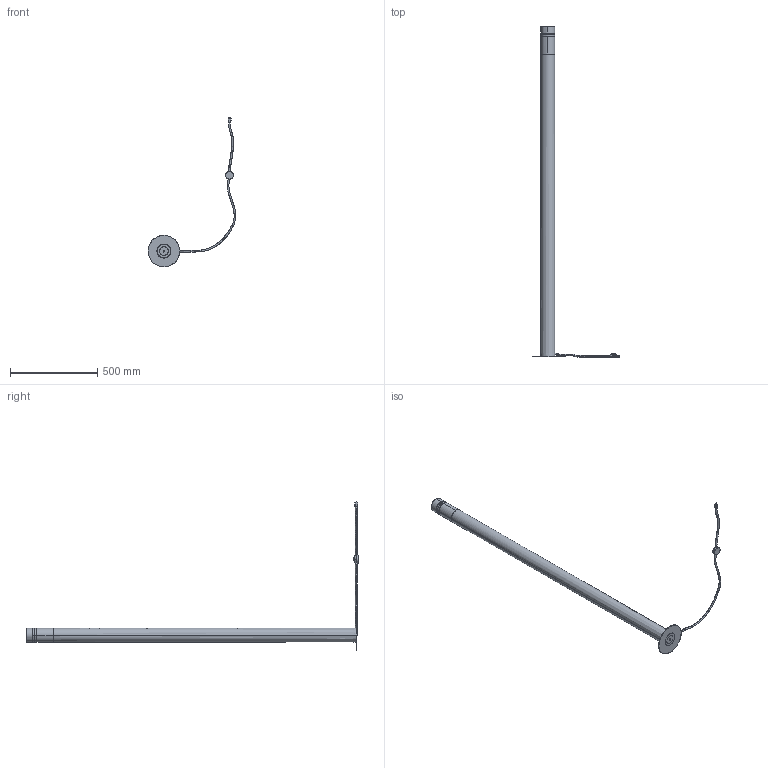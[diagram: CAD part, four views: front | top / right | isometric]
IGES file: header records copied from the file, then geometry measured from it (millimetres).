
Start section: SolidWorks IGES file using analytic representation for surfaces
Global section: file name: C:\Users\Particular\Desktop\almalight\coleccion 2013\catalogo\led pole\3160_led pole.IGS; native system: SolidWorks 2012; preprocessor: SolidWorks 2012; author: Particular; date: 130405.092749; units: millimetre
Bounding box: 501.33 x 1900 x 856.39 mm (x, y, z)
Surface area: 1112479.4 mm2 (no closed solid volume)
Topology: 0 solids, 0 shells, 134 faces, 2533 edges, 2529 vertices
Faces by surface type: bspline 72, revolution 62
